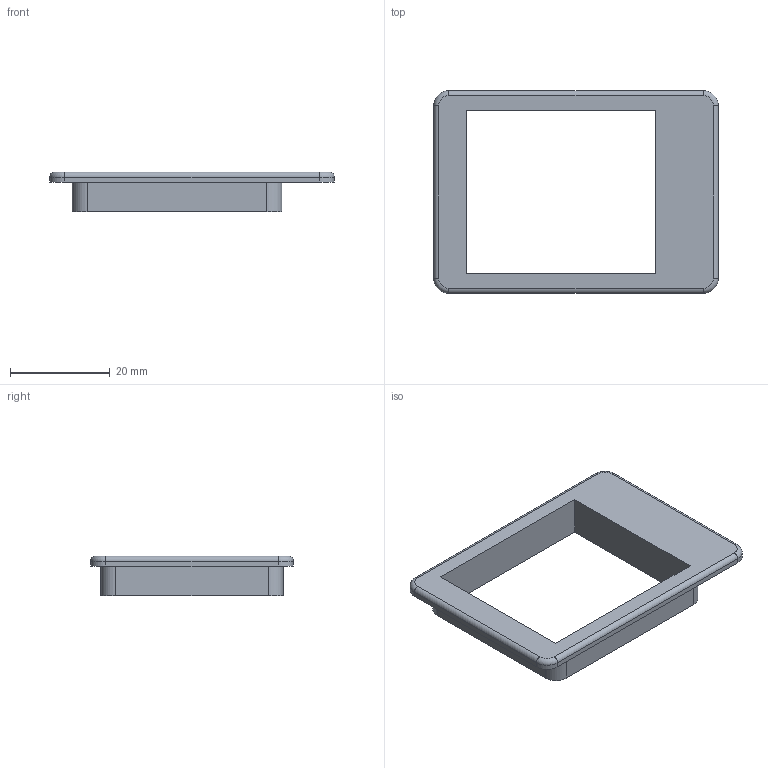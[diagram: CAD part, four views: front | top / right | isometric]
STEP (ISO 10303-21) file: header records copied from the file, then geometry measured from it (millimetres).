
FILE_DESCRIPTION (( 'STEP AP214' ), '1' );
FILE_NAME ('LCD Frame.STEP', '2024-01-21T21:04:47', ( 'Windows User' ), ( '' ), 'SwSTEP 2.0', 'SolidWorks 2010', '' );
FILE_SCHEMA (( 'AUTOMOTIVE_DESIGN' ));
Length unit declared in the file: millimetre
Products named in the file (1): LCD Frame
Bounding box: 57 x 40.6 x 8 mm (x, y, z)
Volume: 3838.9 mm3; surface area: 4475.3 mm2
Topology: 1 solids, 1 shells, 31 faces, 76 edges, 48 vertices
Faces by surface type: plane 15, cylinder 12, torus 4
Entity records: 952 total; most frequent: DIRECTION 168, CARTESIAN_POINT 156, ORIENTED_EDGE 152, EDGE_CURVE 76, AXIS2_PLACEMENT_3D 60, LINE 48, VERTEX_POINT 48, VECTOR 48
